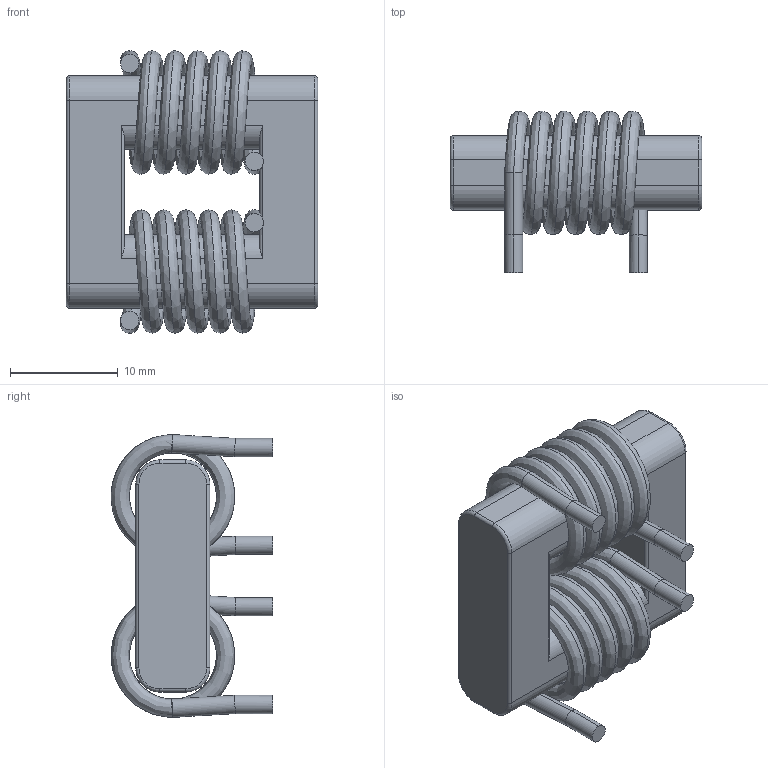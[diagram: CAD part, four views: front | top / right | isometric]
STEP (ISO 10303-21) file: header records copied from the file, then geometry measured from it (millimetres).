
FILE_DESCRIPTION (( 'STEP AP214' ), '1' );
FILE_NAME ('成品线圈3D图-THT-0766-101.STEP', '2025-08-25T08:53:20', ( '微软用户' ), ( '微软中国' ), 'SwSTEP 2.0', 'SolidWorks 2018', '' );
FILE_SCHEMA (( 'AUTOMOTIVE_DESIGN' ));
Length unit declared in the file: millimetre
Products named in the file (1): 成品线圈3D图-THT-0766-101
Bounding box: 23.4 x 15.05 x 26.3 mm (x, y, z)
Volume: 3495.4 mm3; surface area: 3582.8 mm2
Topology: 3 solids, 3 shells, 68 faces, 168 edges, 106 vertices
Faces by surface type: cylinder 36, plane 20, torus 8, bspline 4
Entity records: 5957 total; most frequent: CARTESIAN_POINT 4272, ORIENTED_EDGE 336, DIRECTION 312, EDGE_CURVE 168, AXIS2_PLACEMENT_3D 125, VERTEX_POINT 106, EDGE_LOOP 70, FACE_OUTER_BOUND 68
